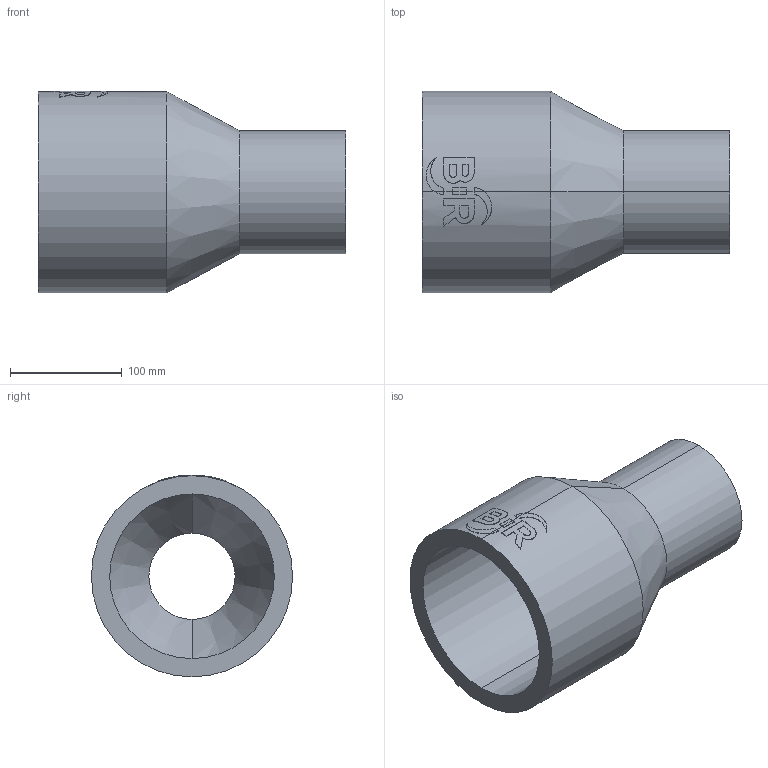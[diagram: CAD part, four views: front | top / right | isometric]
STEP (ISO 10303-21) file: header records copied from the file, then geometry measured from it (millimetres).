
FILE_DESCRIPTION (( 'STEP AP214' ), '1' );
FILE_NAME ('2323181415.STEP', '2018-07-20T10:37:58', ( '' ), ( '' ), 'SwSTEP 2.0', 'SolidWorks 2017', '' );
FILE_SCHEMA (( 'AUTOMOTIVE_DESIGN' ));
Length unit declared in the file: millimetre
Products named in the file (1): 2323181415
Bounding box: 275 x 180 x 180.46 mm (x, y, z)
Volume: 1909748.2 mm3; surface area: 246320.1 mm2
Topology: 1 solids, 1 shells, 63 faces, 160 edges, 104 vertices
Faces by surface type: cylinder 31, plane 28, cone 4
Entity records: 3273 total; most frequent: CARTESIAN_POINT 1064, ORIENTED_EDGE 320, DIRECTION 296, EDGE_CURVE 160, AXIS2_PLACEMENT_3D 112, VERTEX_POINT 104, LINE 72, VECTOR 72
